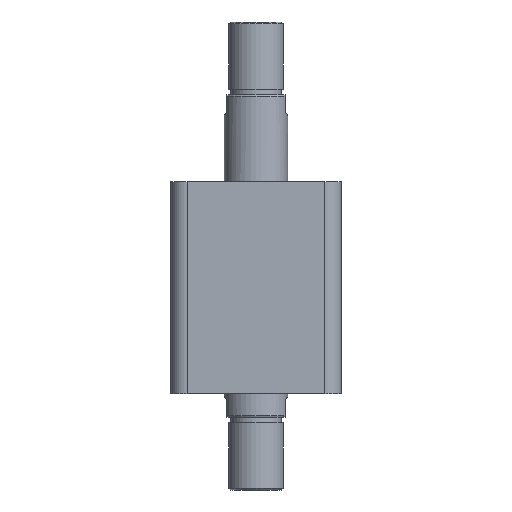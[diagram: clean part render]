
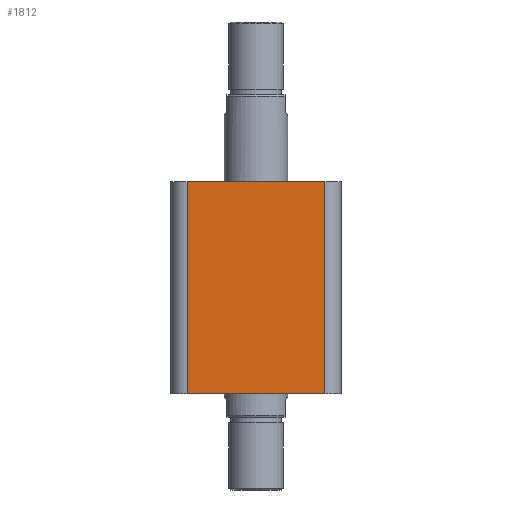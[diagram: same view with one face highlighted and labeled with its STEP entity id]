
A CAD part, front view. The second image highlights one B-rep face of the part: STEP entity #1812.
In plain terms, the highlighted planar face has unit normal (0, -1, 0).
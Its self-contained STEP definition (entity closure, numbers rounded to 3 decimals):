
#288 = CARTESIAN_POINT ( 'NONE',  ( 38., -47., 117. ) ) ;
#289 = DIRECTION ( 'NONE',  ( 0., 0., 1. ) ) ;
#358 = CARTESIAN_POINT ( 'NONE',  ( -47., -47., 117. ) ) ;
#359 = DIRECTION ( 'NONE',  ( 1., 0., 0. ) ) ;
#362 = CARTESIAN_POINT ( 'NONE',  ( -47., -47., 0. ) ) ;
#363 = DIRECTION ( 'NONE',  ( 1., 0., 0. ) ) ;
#364 = CARTESIAN_POINT ( 'NONE',  ( -38., -47., 117. ) ) ;
#365 = DIRECTION ( 'NONE',  ( 0., 0., -1. ) ) ;
#748 = EDGE_CURVE ( 'NONE', #2093, #2090, #2486, .T. ) ;
#772 = EDGE_CURVE ( 'NONE', #2126, #2090, #2518, .T. ) ;
#774 = EDGE_CURVE ( 'NONE', #2096, #2093, #2522, .T. ) ;
#775 = EDGE_CURVE ( 'NONE', #2126, #2096, #2524, .T. ) ;
#1036 = EDGE_LOOP ( 'NONE', ( #1143, #1144, #1145, #1146 ) ) ;
#1143 = ORIENTED_EDGE ( 'NONE', *, *, #772, .F. ) ;
#1144 = ORIENTED_EDGE ( 'NONE', *, *, #775, .T. ) ;
#1145 = ORIENTED_EDGE ( 'NONE', *, *, #774, .T. ) ;
#1146 = ORIENTED_EDGE ( 'NONE', *, *, #748, .T. ) ;
#1812 = ADVANCED_FACE ( 'NONE', ( #3311 ), #2891, .F. ) ;
#2090 = VERTEX_POINT ( 'NONE', #2958 ) ;
#2093 = VERTEX_POINT ( 'NONE', #2961 ) ;
#2096 = VERTEX_POINT ( 'NONE', #2964 ) ;
#2126 = VERTEX_POINT ( 'NONE', #2993 ) ;
#2486 = LINE ( 'NONE', #288, #2488 ) ;
#2488 = VECTOR ( 'NONE', #289, 1000. ) ;
#2518 = LINE ( 'NONE', #358, #2521 ) ;
#2521 = VECTOR ( 'NONE', #359, 1000. ) ;
#2522 = LINE ( 'NONE', #362, #2525 ) ;
#2524 = LINE ( 'NONE', #364, #2527 ) ;
#2525 = VECTOR ( 'NONE', #363, 1000. ) ;
#2527 = VECTOR ( 'NONE', #365, 1000. ) ;
#2889 = CARTESIAN_POINT ( 'NONE',  ( -47., -47., 117. ) ) ;
#2891 = PLANE ( 'NONE',  #3207 ) ;
#2893 = DIRECTION ( 'NONE',  ( 0., 1., 0. ) ) ;
#2894 = DIRECTION ( 'NONE',  ( 0., 0., 1. ) ) ;
#2958 = CARTESIAN_POINT ( 'NONE',  ( 38., -47., 117. ) ) ;
#2961 = CARTESIAN_POINT ( 'NONE',  ( 38., -47., 0. ) ) ;
#2964 = CARTESIAN_POINT ( 'NONE',  ( -38., -47., 0. ) ) ;
#2993 = CARTESIAN_POINT ( 'NONE',  ( -38., -47., 117. ) ) ;
#3207 = AXIS2_PLACEMENT_3D ( 'NONE', #2889, #2893, #2894 ) ;
#3311 = FACE_OUTER_BOUND ( 'NONE', #1036, .T. ) ;
